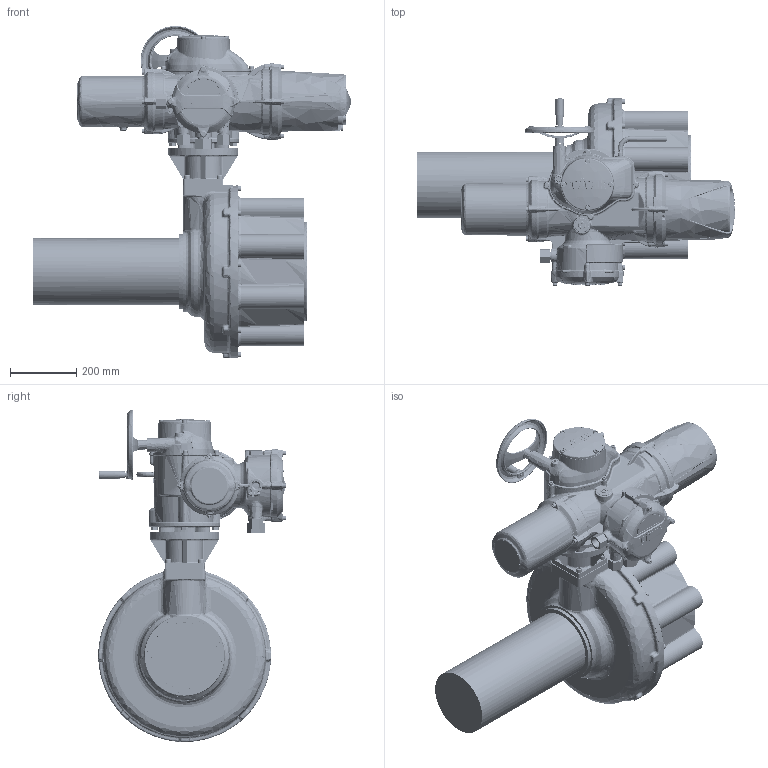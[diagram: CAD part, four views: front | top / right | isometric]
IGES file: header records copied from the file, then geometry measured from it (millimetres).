
Start section: C
Global section: file name: II3SHWIB14STD-1.igs; native system: By Siemens PLM Incorporated; preprocessor: XPlus GENERIC/IGES 18.0.17; author: Author; organization: Title; date: 20160624.095306; units: millimetre
Bounding box: 956.5 x 564.5 x 999.37 mm (x, y, z)
Surface area: 2620147.9 mm2 (no closed solid volume)
Topology: 0 solids, 0 shells, 8078 faces, 44170 edges, 43694 vertices
Faces by surface type: bspline 8078
